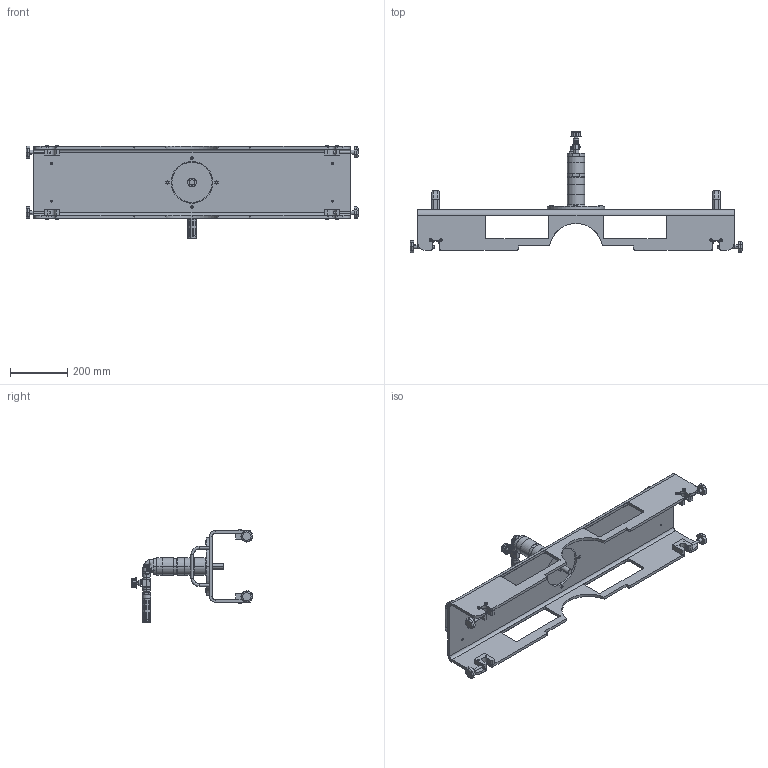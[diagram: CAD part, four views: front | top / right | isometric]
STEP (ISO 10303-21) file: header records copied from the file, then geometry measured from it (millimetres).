
FILE_DESCRIPTION (( 'STEP AP214' ), '1' );
FILE_NAME ('PMC120.STEP', '2019-05-24T07:36:05', ( '' ), ( '' ), 'SwSTEP 2.0', 'SolidWorks 2018', '' );
FILE_SCHEMA (( 'AUTOMOTIVE_DESIGN' ));
Length unit declared in the file: millimetre
Products named in the file (17): Dämmmatte v3; Schalli; Stellrad V3; Doppelnippel PM64; Winkel V3; V3; Klemmschraube; Griffe; socket head thin cap screw_din_DIN 7984 - M8 x 20 --- 16.25N; Einziehmutter; PM120; socket head thin cap screw_din_DIN 7984 - M6 x 10 --- 7N; Klemmblock CTR; Traverse neu; PMC120; Stecknippel PLM; Schalldämpfer Deckel V3
Assembly tree (36 placements, depth 2):
  PMC120
    Traverse neu
    Klemmblock CTR  x4
    socket head thin cap screw_din_DIN 7984 - M6 x 10 --- 7N  x8
    PM120
    Einziehmutter  x4
    socket head thin cap screw_din_DIN 7984 - M8 x 20 --- 16.25N  x4
    Griffe  x2
    Klemmschraube  x4
    V3
    Winkel V3
    Doppelnippel PM64
    Stellrad V3
    Schalli
    Dämmmatte v3
    Schalldämpfer Deckel V3
    Stecknippel PLM
Bounding box: 1155 x 422.69 x 324.9 mm (x, y, z)
Volume: 5631338.4 mm3; surface area: 1207679.7 mm2
Topology: 36 solids, 36 shells, 1171 faces, 2769 edges, 1722 vertices
Faces by surface type: plane 590, cylinder 411, cone 100, torus 70
Entity records: 23895 total; most frequent: CARTESIAN_POINT 5762, DIRECTION 3623, ORIENTED_EDGE 3446, EDGE_CURVE 1723, AXIS2_PLACEMENT_3D 1335, VERTEX_POINT 1102, VECTOR 953, LINE 953
